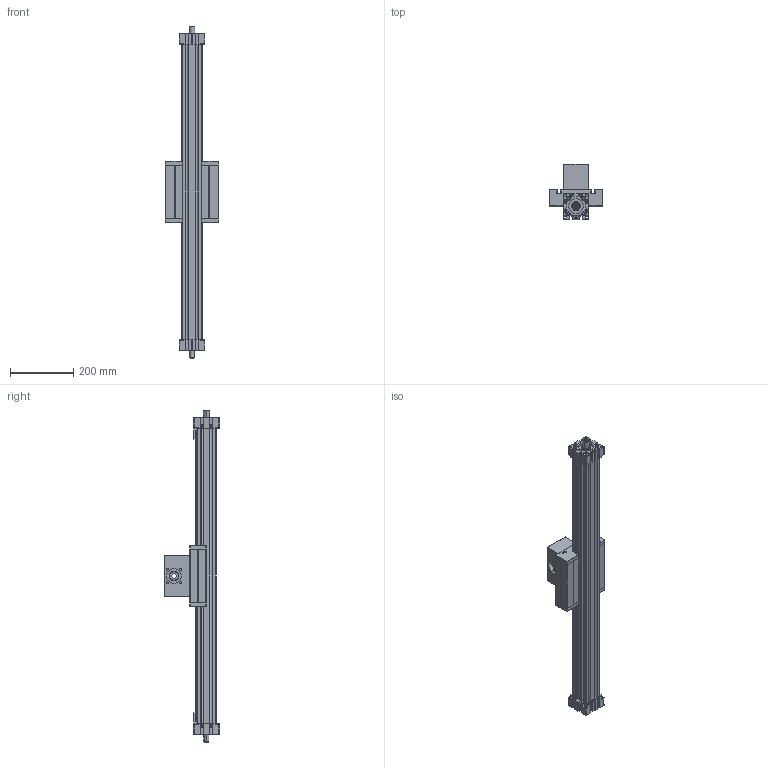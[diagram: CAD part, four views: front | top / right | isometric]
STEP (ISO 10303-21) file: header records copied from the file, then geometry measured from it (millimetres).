
FILE_DESCRIPTION (( 'STEP AP214' ), '1' );
FILE_NAME ('ELSD60S.STEP', '2022-07-21T11:16:00', ( '' ), ( '' ), 'SwSTEP 2.0', 'SolidWorks 2020', '' );
FILE_SCHEMA (( 'AUTOMOTIVE_DESIGN' ));
Length unit declared in the file: millimetre
Products named in the file (6): profile^ELSD60S_2x guide rods; timing belt reverse unit^ELSD60S_coupling claw pos.1; carriage^ELSD60S_carriage version 0; load block^ELSD60S_4x guide rods; drive block^ELSD60S_1; ELSD60S
Assembly tree (5 placements, depth 2):
  ELSD60S
    profile^ELSD60S_2x guide rods
    carriage^ELSD60S_carriage version 0
    timing belt reverse unit^ELSD60S_coupling claw pos.1
    load block^ELSD60S_4x guide rods
    drive block^ELSD60S_1
Bounding box: 170 x 174 x 1050 mm (x, y, z)
Volume: 4508442.3 mm3; surface area: 836884.4 mm2
Topology: 14 solids, 14 shells, 1163 faces, 3237 edges, 2126 vertices
Faces by surface type: plane 791, cylinder 312, cone 48, torus 8, sphere 4
Entity records: 38329 total; most frequent: CARTESIAN_POINT 6762, ORIENTED_EDGE 6466, DIRECTION 6255, EDGE_CURVE 3233, LINE 2481, VECTOR 2481, VERTEX_POINT 2126, AXIS2_PLACEMENT_3D 1887
